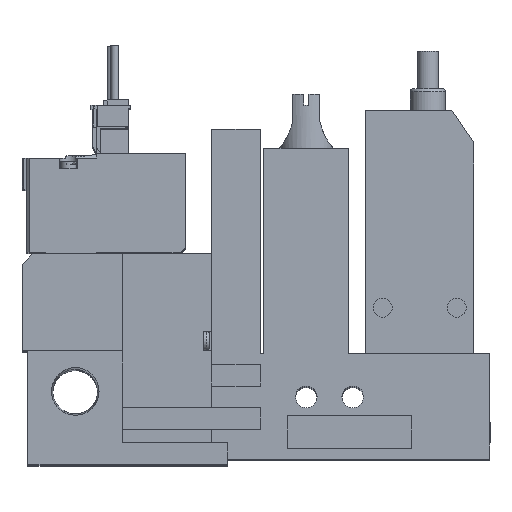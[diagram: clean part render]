
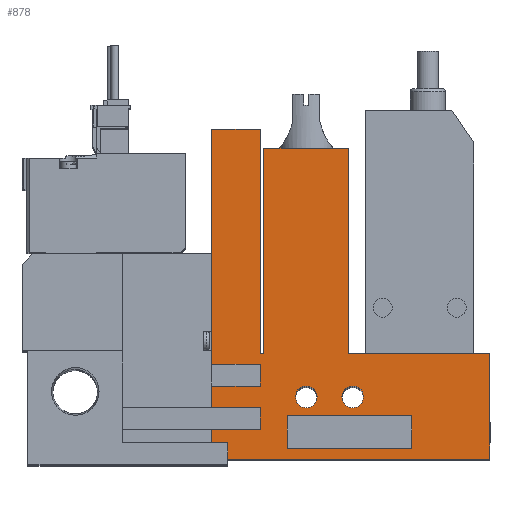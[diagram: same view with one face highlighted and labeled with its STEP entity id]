
A CAD part, top view. The second image highlights one B-rep face of the part: STEP entity #878.
In plain terms, the highlighted planar face has unit normal (0, 0, 1).
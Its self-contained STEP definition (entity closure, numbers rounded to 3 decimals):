
#878=ADVANCED_FACE('',(#1734,#1735,#1736,#1737),#1738,.T.);
#1734=FACE_OUTER_BOUND('',#2951,.T.);
#1735=FACE_BOUND('',#2952,.T.);
#1736=FACE_BOUND('',#2953,.T.);
#1737=FACE_BOUND('',#2954,.T.);
#1738=PLANE('',#2955);
#2951=EDGE_LOOP('',(#5968,#5969,#5970,#5971,#5972,#5973,#5974,#5975,#5976,#5977,#5978,#5979,#5980,#5981,#5982,#5983,#5984,#5985));
#2952=EDGE_LOOP('',(#5986,#5987,#5988,#5989));
#2953=EDGE_LOOP('',(#5990));
#2954=EDGE_LOOP('',(#5991));
#2955=AXIS2_PLACEMENT_3D('',#5992,#5993,#5994);
#5968=ORIENTED_EDGE('',*,*,#8291,.T.);
#5969=ORIENTED_EDGE('',*,*,#8292,.T.);
#5970=ORIENTED_EDGE('',*,*,#8293,.T.);
#5971=ORIENTED_EDGE('',*,*,#8294,.T.);
#5972=ORIENTED_EDGE('',*,*,#8295,.T.);
#5973=ORIENTED_EDGE('',*,*,#8281,.T.);
#5974=ORIENTED_EDGE('',*,*,#8296,.T.);
#5975=ORIENTED_EDGE('',*,*,#8262,.T.);
#5976=ORIENTED_EDGE('',*,*,#8297,.T.);
#5977=ORIENTED_EDGE('',*,*,#8298,.T.);
#5978=ORIENTED_EDGE('',*,*,#8299,.T.);
#5979=ORIENTED_EDGE('',*,*,#8221,.T.);
#5980=ORIENTED_EDGE('',*,*,#8300,.T.);
#5981=ORIENTED_EDGE('',*,*,#8301,.T.);
#5982=ORIENTED_EDGE('',*,*,#8302,.T.);
#5983=ORIENTED_EDGE('',*,*,#8303,.T.);
#5984=ORIENTED_EDGE('',*,*,#8304,.T.);
#5985=ORIENTED_EDGE('',*,*,#8305,.T.);
#5986=ORIENTED_EDGE('',*,*,#8306,.T.);
#5987=ORIENTED_EDGE('',*,*,#8307,.T.);
#5988=ORIENTED_EDGE('',*,*,#8308,.T.);
#5989=ORIENTED_EDGE('',*,*,#8309,.T.);
#5990=ORIENTED_EDGE('',*,*,#8310,.T.);
#5991=ORIENTED_EDGE('',*,*,#8311,.T.);
#5992=CARTESIAN_POINT('',(0.0,0.0,10.0));
#5993=DIRECTION('',(0.0,0.0,1.0));
#5994=DIRECTION('',(1.0,0.0,0.0));
#8221=EDGE_CURVE('',#9933,#9931,#9934,.T.);
#8262=EDGE_CURVE('',#10009,#10007,#10010,.T.);
#8281=EDGE_CURVE('',#10043,#10044,#10045,.T.);
#8291=EDGE_CURVE('',#10063,#10064,#10065,.T.);
#8292=EDGE_CURVE('',#10064,#10066,#10067,.T.);
#8293=EDGE_CURVE('',#10066,#10068,#10069,.T.);
#8294=EDGE_CURVE('',#10068,#10070,#10071,.T.);
#8295=EDGE_CURVE('',#10070,#10043,#10072,.T.);
#8296=EDGE_CURVE('',#10044,#10009,#10073,.T.);
#8297=EDGE_CURVE('',#10007,#10074,#10075,.T.);
#8298=EDGE_CURVE('',#10074,#10076,#10077,.T.);
#8299=EDGE_CURVE('',#10076,#9933,#10078,.T.);
#8300=EDGE_CURVE('',#9931,#10079,#10080,.T.);
#8301=EDGE_CURVE('',#10079,#10081,#10082,.T.);
#8302=EDGE_CURVE('',#10081,#10083,#10084,.T.);
#8303=EDGE_CURVE('',#10083,#10085,#10086,.T.);
#8304=EDGE_CURVE('',#10085,#10087,#10088,.T.);
#8305=EDGE_CURVE('',#10087,#10063,#10089,.T.);
#8306=EDGE_CURVE('',#10090,#10091,#10092,.T.);
#8307=EDGE_CURVE('',#10091,#10093,#10094,.T.);
#8308=EDGE_CURVE('',#10093,#10095,#10096,.T.);
#8309=EDGE_CURVE('',#10095,#10090,#10097,.T.);
#8310=EDGE_CURVE('',#10098,#10098,#10099,.T.);
#8311=EDGE_CURVE('',#10100,#10100,#10101,.T.);
#9931=VERTEX_POINT('',#12705);
#9933=VERTEX_POINT('',#12708);
#9934=LINE('',#12709,#12710);
#10007=VERTEX_POINT('',#12813);
#10009=VERTEX_POINT('',#12816);
#10010=LINE('',#12817,#12818);
#10043=VERTEX_POINT('',#12869);
#10044=VERTEX_POINT('',#12870);
#10045=LINE('',#12871,#12872);
#10063=VERTEX_POINT('',#12899);
#10064=VERTEX_POINT('',#12900);
#10065=LINE('',#12901,#12902);
#10066=VERTEX_POINT('',#12903);
#10067=LINE('',#12904,#12905);
#10068=VERTEX_POINT('',#12906);
#10069=LINE('',#12907,#12908);
#10070=VERTEX_POINT('',#12909);
#10071=LINE('',#12910,#12911);
#10072=LINE('',#12912,#12913);
#10073=LINE('',#12914,#12915);
#10074=VERTEX_POINT('',#12916);
#10075=LINE('',#12917,#12918);
#10076=VERTEX_POINT('',#12919);
#10077=LINE('',#12920,#12921);
#10078=LINE('',#12922,#12923);
#10079=VERTEX_POINT('',#12924);
#10080=LINE('',#12925,#12926);
#10081=VERTEX_POINT('',#12927);
#10082=LINE('',#12928,#12929);
#10083=VERTEX_POINT('',#12930);
#10084=LINE('',#12931,#12932);
#10085=VERTEX_POINT('',#12933);
#10086=LINE('',#12934,#12935);
#10087=VERTEX_POINT('',#12936);
#10088=LINE('',#12937,#12938);
#10089=LINE('',#12939,#12940);
#10090=VERTEX_POINT('',#12941);
#10091=VERTEX_POINT('',#12942);
#10092=LINE('',#12943,#12944);
#10093=VERTEX_POINT('',#12945);
#10094=LINE('',#12946,#12947);
#10095=VERTEX_POINT('',#12948);
#10096=LINE('',#12949,#12950);
#10097=LINE('',#12951,#12952);
#10098=VERTEX_POINT('',#12953);
#10099=CIRCLE('',#12954,2.0);
#10100=VERTEX_POINT('',#12955);
#10101=CIRCLE('',#12956,2.0);
#12705=CARTESIAN_POINT('',(60.45,19.5,10.0));
#12708=CARTESIAN_POINT('',(86.6,19.5,10.0));
#12709=CARTESIAN_POINT('',(86.6,19.5,10.0));
#12710=VECTOR('',#15081,1.0);
#12813=CARTESIAN_POINT('',(35.1,5.5,10.0));
#12816=CARTESIAN_POINT('',(44.1,5.5,10.0));
#12817=CARTESIAN_POINT('',(0.0,5.5,10.0));
#12818=VECTOR('',#15140,1.0);
#12869=CARTESIAN_POINT('',(35.1,9.5,10.0));
#12870=CARTESIAN_POINT('',(44.1,9.5,10.0));
#12871=CARTESIAN_POINT('',(0.0,9.5,10.0));
#12872=VECTOR('',#15159,1.0);
#12899=CARTESIAN_POINT('',(35.1,61.0,10.0));
#12900=CARTESIAN_POINT('',(35.1,17.5,10.0));
#12901=CARTESIAN_POINT('',(35.1,61.0,10.0));
#12902=VECTOR('',#15169,1.0);
#12903=CARTESIAN_POINT('',(44.1,17.5,10.0));
#12904=CARTESIAN_POINT('',(0.0,17.5,10.0));
#12905=VECTOR('',#15170,1.0);
#12906=CARTESIAN_POINT('',(44.1,13.5,10.0));
#12907=CARTESIAN_POINT('',(44.1,0.0,10.0));
#12908=VECTOR('',#15171,1.0);
#12909=CARTESIAN_POINT('',(35.1,13.5,10.0));
#12910=CARTESIAN_POINT('',(0.0,13.5,10.0));
#12911=VECTOR('',#15172,1.0);
#12912=CARTESIAN_POINT('',(35.1,0.0,10.0));
#12913=VECTOR('',#15173,1.0);
#12914=CARTESIAN_POINT('',(44.1,0.0,10.0));
#12915=VECTOR('',#15174,1.0);
#12916=CARTESIAN_POINT('',(35.1,0.0,10.0));
#12917=CARTESIAN_POINT('',(35.1,0.0,10.0));
#12918=VECTOR('',#15175,1.0);
#12919=CARTESIAN_POINT('',(86.6,0.0,10.0));
#12920=CARTESIAN_POINT('',(18.6,0.0,10.0));
#12921=VECTOR('',#15176,1.0);
#12922=CARTESIAN_POINT('',(86.6,0.0,10.0));
#12923=VECTOR('',#15177,1.0);
#12924=CARTESIAN_POINT('',(60.45,57.5,10.0));
#12925=CARTESIAN_POINT('',(60.45,19.5,10.0));
#12926=VECTOR('',#15178,1.0);
#12927=CARTESIAN_POINT('',(44.75,57.5,10.0));
#12928=CARTESIAN_POINT('',(60.45,57.5,10.0));
#12929=VECTOR('',#15179,1.0);
#12930=CARTESIAN_POINT('',(44.75,19.5,10.0));
#12931=CARTESIAN_POINT('',(44.75,57.5,10.0));
#12932=VECTOR('',#15180,1.0);
#12933=CARTESIAN_POINT('',(44.1,19.5,10.0));
#12934=CARTESIAN_POINT('',(44.75,19.5,10.0));
#12935=VECTOR('',#15181,1.0);
#12936=CARTESIAN_POINT('',(44.1,61.0,10.0));
#12937=CARTESIAN_POINT('',(44.1,19.5,10.0));
#12938=VECTOR('',#15182,1.0);
#12939=CARTESIAN_POINT('',(44.1,61.0,10.0));
#12940=VECTOR('',#15183,1.0);
#12941=CARTESIAN_POINT('',(49.1,2.0,10.0));
#12942=CARTESIAN_POINT('',(49.1,8.0,10.0));
#12943=CARTESIAN_POINT('',(49.1,0.0,10.0));
#12944=VECTOR('',#15184,1.0);
#12945=CARTESIAN_POINT('',(72.1,8.0,10.0));
#12946=CARTESIAN_POINT('',(0.0,8.0,10.0));
#12947=VECTOR('',#15185,1.0);
#12948=CARTESIAN_POINT('',(72.1,2.0,10.0));
#12949=CARTESIAN_POINT('',(72.1,0.0,10.0));
#12950=VECTOR('',#15186,1.0);
#12951=CARTESIAN_POINT('',(0.0,2.0,10.0));
#12952=VECTOR('',#15187,1.0);
#12953=CARTESIAN_POINT('',(54.6,11.5,10.0));
#12954=AXIS2_PLACEMENT_3D('',#15188,#15189,#15190);
#12955=CARTESIAN_POINT('',(63.2,11.5,10.0));
#12956=AXIS2_PLACEMENT_3D('',#15191,#15192,#15193);
#15081=DIRECTION('',(-1.0,0.0,0.0));
#15140=DIRECTION('',(-1.0,0.0,0.0));
#15159=DIRECTION('',(1.0,0.0,0.0));
#15169=DIRECTION('',(0.0,-1.0,0.0));
#15170=DIRECTION('',(1.0,0.0,0.0));
#15171=DIRECTION('',(0.0,-1.0,0.0));
#15172=DIRECTION('',(-1.0,0.0,0.0));
#15173=DIRECTION('',(0.0,-1.0,0.0));
#15174=DIRECTION('',(0.0,-1.0,0.0));
#15175=DIRECTION('',(0.0,-1.0,0.0));
#15176=DIRECTION('',(1.0,0.0,0.0));
#15177=DIRECTION('',(0.0,1.0,0.0));
#15178=DIRECTION('',(0.0,1.0,0.0));
#15179=DIRECTION('',(-1.0,0.0,0.0));
#15180=DIRECTION('',(0.0,-1.0,0.0));
#15181=DIRECTION('',(-1.0,0.0,0.0));
#15182=DIRECTION('',(0.0,1.0,0.0));
#15183=DIRECTION('',(-1.0,0.0,0.0));
#15184=DIRECTION('',(0.0,1.0,0.0));
#15185=DIRECTION('',(1.0,0.0,0.0));
#15186=DIRECTION('',(0.0,-1.0,0.0));
#15187=DIRECTION('',(-1.0,0.0,0.0));
#15188=CARTESIAN_POINT('',(52.6,11.5,10.0));
#15189=DIRECTION('',(0.0,0.0,-1.0));
#15190=DIRECTION('',(1.0,0.0,0.0));
#15191=CARTESIAN_POINT('',(61.2,11.5,10.0));
#15192=DIRECTION('',(0.0,0.0,-1.0));
#15193=DIRECTION('',(1.0,0.0,0.0));
